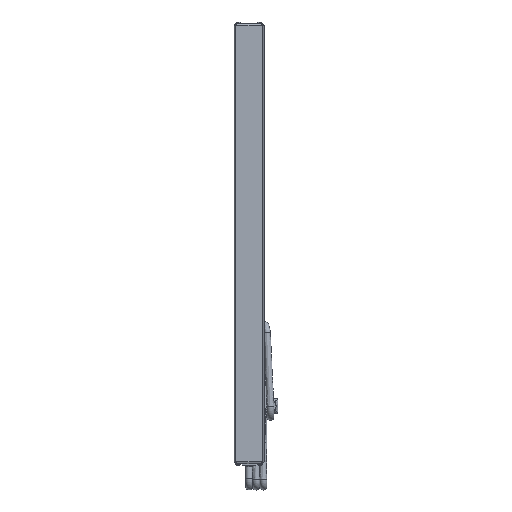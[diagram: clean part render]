
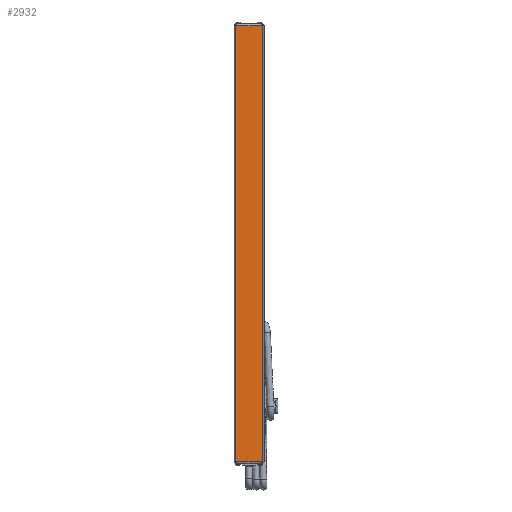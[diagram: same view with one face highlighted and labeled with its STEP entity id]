
A CAD part, front view. The second image highlights one B-rep face of the part: STEP entity #2932.
In plain terms, the highlighted planar face has unit normal (0, -1, 0).
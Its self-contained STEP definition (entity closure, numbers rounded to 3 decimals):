
#2654=CARTESIAN_POINT('',(18.421,0.,596.9));
#2655=VERTEX_POINT('',#2654);
#2663=CARTESIAN_POINT('',(18.421,0.,0.0));
#2664=VERTEX_POINT('',#2663);
#2665=CARTESIAN_POINT('',(18.421,0.0,596.9));
#2666=DIRECTION('',(0.0,0.0,-1.0));
#2667=VECTOR('',#2666,596.9);
#2668=LINE('',#2665,#2667);
#2669=EDGE_CURVE('',#2655,#2664,#2668,.T.);
#2695=CARTESIAN_POINT('',(-18.421,0.,0.0));
#2696=VERTEX_POINT('',#2695);
#2697=CARTESIAN_POINT('',(-18.421,0.,0.0));
#2698=DIRECTION('',(1.0,0.0,0.0));
#2699=VECTOR('',#2698,36.842);
#2700=LINE('',#2697,#2699);
#2701=EDGE_CURVE('',#2696,#2664,#2700,.T.);
#2909=CARTESIAN_POINT('',(18.735,0.0,0.0));
#2910=DIRECTION('',(0.0,-1.0,0.0));
#2911=DIRECTION('',(0.0,0.0,-1.0));
#2912=AXIS2_PLACEMENT_3D('',#2909,#2910,#2911);
#2913=PLANE('',#2912);
#2914=ORIENTED_EDGE('',*,*,#2669,.F.);
#2915=CARTESIAN_POINT('',(-18.421,0.,596.9));
#2916=VERTEX_POINT('',#2915);
#2917=CARTESIAN_POINT('',(18.421,0.,596.9));
#2918=DIRECTION('',(-1.0,0.0,0.0));
#2919=VECTOR('',#2918,36.842);
#2920=LINE('',#2917,#2919);
#2921=EDGE_CURVE('',#2655,#2916,#2920,.T.);
#2922=ORIENTED_EDGE('',*,*,#2921,.T.);
#2923=CARTESIAN_POINT('',(-18.421,0.0,0.0));
#2924=DIRECTION('',(0.0,0.0,1.0));
#2925=VECTOR('',#2924,596.9);
#2926=LINE('',#2923,#2925);
#2927=EDGE_CURVE('',#2696,#2916,#2926,.T.);
#2928=ORIENTED_EDGE('',*,*,#2927,.F.);
#2929=ORIENTED_EDGE('',*,*,#2701,.T.);
#2930=EDGE_LOOP('',(#2914,#2922,#2928,#2929));
#2931=FACE_OUTER_BOUND('',#2930,.T.);
#2932=ADVANCED_FACE('',(#2931),#2913,.T.);
